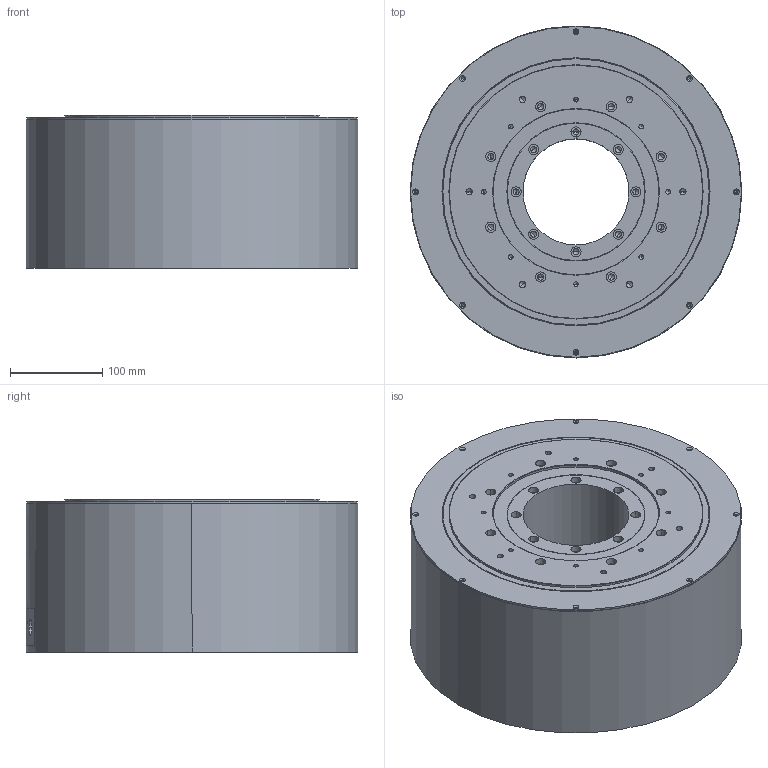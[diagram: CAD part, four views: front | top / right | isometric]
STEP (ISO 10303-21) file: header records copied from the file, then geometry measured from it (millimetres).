
FILE_DESCRIPTION((''),'2;1');
FILE_NAME('PM-DDFA6G','2016-02-05T',('jb17719'),(''),'PRO/ENGINEER BY PARAMETRIC TECHNOLOGY CORPORATION, 2008070','PRO/ENGINEER BY PARAMETRIC TECHNOLOGY CORPORATION, 2008070','');
FILE_SCHEMA(('AUTOMOTIVE_DESIGN_CC2 { 1 2 10303 214 -1 1 5 2 }'));
Length unit declared in the file: millimetre
Products named in the file (1): PM-DDFA6G
Bounding box: 360 x 360 x 167 mm (x, y, z)
Volume: 14877912.5 mm3; surface area: 881807.6 mm2
Topology: 1 solids, 1 shells, 369 faces, 852 edges, 465 vertices
Faces by surface type: cylinder 186, cone 140, plane 43
Entity records: 9893 total; most frequent: DIRECTION 1880, CARTESIAN_POINT 1572, ORIENTED_EDGE 1476, AXIS2_PLACEMENT_3D 773, EDGE_CURVE 738, VERTEX_POINT 465, EDGE_LOOP 465, CIRCLE 404
